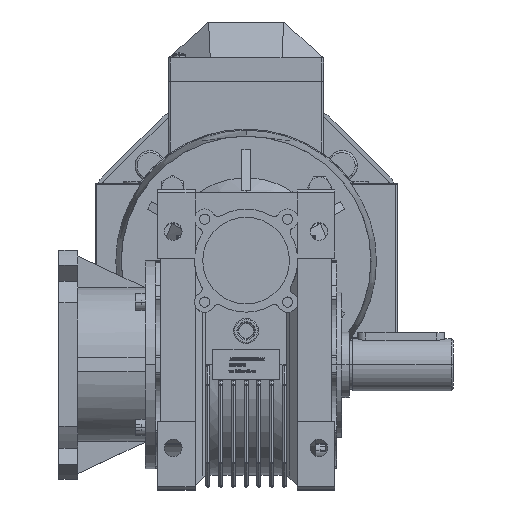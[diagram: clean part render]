
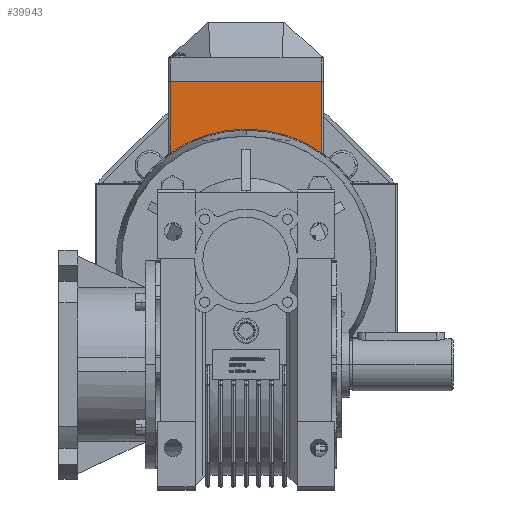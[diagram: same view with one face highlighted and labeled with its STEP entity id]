
A CAD part, top view. The second image highlights one B-rep face of the part: STEP entity #39943.
In plain terms, the highlighted planar face has unit normal (0, 0, 1).
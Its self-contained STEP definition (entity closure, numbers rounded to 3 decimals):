
#19 = DIRECTION ( 'NONE',  ( 0., 0., 1. ) ) ;
#278 = CARTESIAN_POINT ( 'NONE',  ( 0., -9.975, 0. ) ) ;
#822 = ORIENTED_EDGE ( 'NONE', *, *, #48514, .T. ) ;
#854 = ORIENTED_EDGE ( 'NONE', *, *, #27458, .T. ) ;
#1288 = CARTESIAN_POINT ( 'NONE',  ( -36.282, 45.251, 0. ) ) ;
#4434 = VECTOR ( 'NONE', #77160, 1000. ) ;
#4454 = DIRECTION ( 'NONE',  ( -1., 0., 0. ) ) ;
#7438 = VERTEX_POINT ( 'NONE', #278 ) ;
#8018 = CIRCLE ( 'NONE', #109142, 58. ) ;
#8771 = EDGE_CURVE ( 'NONE', #65707, #29183, #8018, .T. ) ;
#9987 = EDGE_LOOP ( 'NONE', ( #104107, #53023, #110832, #47621, #57698, #104304, #98650, #27817, #854, #822, #113273, #22730 ) ) ;
#10400 = LINE ( 'NONE', #65984, #105538 ) ;
#14269 = AXIS2_PLACEMENT_3D ( 'NONE', #94013, #84112, #38570 ) ;
#18540 = VERTEX_POINT ( 'NONE', #53720 ) ;
#18764 = CARTESIAN_POINT ( 'NONE',  ( -72.5, 37.282, 0. ) ) ;
#19725 = CARTESIAN_POINT ( 'NONE',  ( 44.431, 37.282, 0. ) ) ;
#19888 = EDGE_CURVE ( 'NONE', #18540, #57154, #49044, .T. ) ;
#19949 = AXIS2_PLACEMENT_3D ( 'NONE', #36548, #19, #72903 ) ;
#21250 = EDGE_CURVE ( 'NONE', #41386, #85569, #10400, .T. ) ;
#22339 = VECTOR ( 'NONE', #58625, 1000. ) ;
#22730 = ORIENTED_EDGE ( 'NONE', *, *, #38476, .T. ) ;
#22898 = VECTOR ( 'NONE', #4454, 1000. ) ;
#23271 = CARTESIAN_POINT ( 'NONE',  ( 44.431, 37.282, 0. ) ) ;
#27458 = EDGE_CURVE ( 'NONE', #28649, #97891, #116967, .T. ) ;
#27817 = ORIENTED_EDGE ( 'NONE', *, *, #40690, .T. ) ;
#28649 = VERTEX_POINT ( 'NONE', #54918 ) ;
#28686 = DIRECTION ( 'NONE',  ( 0., 0., 1. ) ) ;
#28753 = AXIS2_PLACEMENT_3D ( 'NONE', #36139, #105462, #78872 ) ;
#29148 = CARTESIAN_POINT ( 'NONE',  ( 44.431, -37.282, 0. ) ) ;
#29180 = VECTOR ( 'NONE', #112464, 1000. ) ;
#29183 = VERTEX_POINT ( 'NONE', #111414 ) ;
#30154 = VERTEX_POINT ( 'NONE', #46117 ) ;
#30801 = DIRECTION ( 'NONE',  ( 0., 0., 1. ) ) ;
#33843 = DIRECTION ( 'NONE',  ( 0., 0., -1. ) ) ;
#33902 = FACE_BOUND ( 'NONE', #50969, .T. ) ;
#34913 = LINE ( 'NONE', #102971, #29180 ) ;
#36139 = CARTESIAN_POINT ( 'NONE',  ( 0., 0., 0. ) ) ;
#36548 = CARTESIAN_POINT ( 'NONE',  ( 0., 0., 0. ) ) ;
#36917 = EDGE_CURVE ( 'NONE', #75025, #111040, #90272, .T. ) ;
#37514 = DIRECTION ( 'NONE',  ( 1., 0., 0. ) ) ;
#38476 = EDGE_CURVE ( 'NONE', #111040, #99383, #72734, .T. ) ;
#38570 = DIRECTION ( 'NONE',  ( 0., 1., 0. ) ) ;
#39729 = CARTESIAN_POINT ( 'NONE',  ( -44.431, 37.282, 0. ) ) ;
#39939 = DIRECTION ( 'NONE',  ( 1., 0., 0. ) ) ;
#39943 = ADVANCED_FACE ( 'NONE', ( #49489, #33902 ), #114542, .T. ) ;
#40690 = EDGE_CURVE ( 'NONE', #29183, #28649, #86255, .T. ) ;
#41386 = VERTEX_POINT ( 'NONE', #85688 ) ;
#41756 = CARTESIAN_POINT ( 'NONE',  ( 36.282, 0., 0. ) ) ;
#44463 = VECTOR ( 'NONE', #105151, 1000. ) ;
#45553 = CARTESIAN_POINT ( 'NONE',  ( 36.282, 45.251, 0. ) ) ;
#46117 = CARTESIAN_POINT ( 'NONE',  ( 0., 9.975, 0. ) ) ;
#46132 = DIRECTION ( 'NONE',  ( 1., 0., 0. ) ) ;
#47339 = CARTESIAN_POINT ( 'NONE',  ( -36.282, 0., 0. ) ) ;
#47621 = ORIENTED_EDGE ( 'NONE', *, *, #88673, .F. ) ;
#47753 = CIRCLE ( 'NONE', #111131, 58. ) ;
#48514 = EDGE_CURVE ( 'NONE', #97891, #75025, #95313, .T. ) ;
#49044 = LINE ( 'NONE', #47339, #50436 ) ;
#49489 = FACE_OUTER_BOUND ( 'NONE', #9987, .T. ) ;
#50436 = VECTOR ( 'NONE', #109145, 1000. ) ;
#50969 = EDGE_LOOP ( 'NONE', ( #100421, #81719 ) ) ;
#52451 = CARTESIAN_POINT ( 'NONE',  ( 72.5, 37.282, 0. ) ) ;
#53023 = ORIENTED_EDGE ( 'NONE', *, *, #19888, .T. ) ;
#53720 = CARTESIAN_POINT ( 'NONE',  ( -36.282, 86.25, 0. ) ) ;
#54918 = CARTESIAN_POINT ( 'NONE',  ( 72.5, -37.282, 0. ) ) ;
#56312 = EDGE_CURVE ( 'NONE', #18540, #99383, #77600, .T. ) ;
#57154 = VERTEX_POINT ( 'NONE', #1288 ) ;
#57698 = ORIENTED_EDGE ( 'NONE', *, *, #21250, .F. ) ;
#58625 = DIRECTION ( 'NONE',  ( 1., 0., 0. ) ) ;
#60347 = EDGE_CURVE ( 'NONE', #65707, #41386, #79662, .T. ) ;
#62137 = VECTOR ( 'NONE', #37514, 1000. ) ;
#64281 = CARTESIAN_POINT ( 'NONE',  ( -44.431, -37.282, 0. ) ) ;
#65205 = DIRECTION ( 'NONE',  ( 0., 1., 0. ) ) ;
#65511 = AXIS2_PLACEMENT_3D ( 'NONE', #69478, #33843, #87791 ) ;
#65707 = VERTEX_POINT ( 'NONE', #64281 ) ;
#65848 = VECTOR ( 'NONE', #89891, 1000. ) ;
#65984 = CARTESIAN_POINT ( 'NONE',  ( -72.5, 37.282, 0. ) ) ;
#66933 = CARTESIAN_POINT ( 'NONE',  ( 36.282, 86.25, 0. ) ) ;
#67846 = CARTESIAN_POINT ( 'NONE',  ( -44.431, -37.282, 0. ) ) ;
#68870 = CIRCLE ( 'NONE', #14269, 9.975 ) ;
#69478 = CARTESIAN_POINT ( 'NONE',  ( 0., 0., 0. ) ) ;
#72734 = LINE ( 'NONE', #41756, #44463 ) ;
#72903 = DIRECTION ( 'NONE',  ( 1., 0., 0. ) ) ;
#75025 = VERTEX_POINT ( 'NONE', #19725 ) ;
#77160 = DIRECTION ( 'NONE',  ( -1., 0., 0. ) ) ;
#77600 = LINE ( 'NONE', #95474, #22339 ) ;
#78872 = DIRECTION ( 'NONE',  ( 1., 0., 0. ) ) ;
#79662 = LINE ( 'NONE', #67846, #22898 ) ;
#81719 = ORIENTED_EDGE ( 'NONE', *, *, #89514, .T. ) ;
#83764 = CARTESIAN_POINT ( 'NONE',  ( 0., 0., 0. ) ) ;
#84112 = DIRECTION ( 'NONE',  ( 0., 0., -1. ) ) ;
#85569 = VERTEX_POINT ( 'NONE', #18764 ) ;
#85688 = CARTESIAN_POINT ( 'NONE',  ( -72.5, -37.282, 0. ) ) ;
#86255 = LINE ( 'NONE', #29148, #62137 ) ;
#86822 = CIRCLE ( 'NONE', #65511, 9.975 ) ;
#87791 = DIRECTION ( 'NONE',  ( 0., 1., 0. ) ) ;
#88673 = EDGE_CURVE ( 'NONE', #85569, #94700, #34913, .T. ) ;
#89514 = EDGE_CURVE ( 'NONE', #7438, #30154, #68870, .T. ) ;
#89891 = DIRECTION ( 'NONE',  ( 0., 1., 0. ) ) ;
#90272 = CIRCLE ( 'NONE', #19949, 58. ) ;
#90656 = CARTESIAN_POINT ( 'NONE',  ( 72.5, 37.282, 0. ) ) ;
#94013 = CARTESIAN_POINT ( 'NONE',  ( 0., 0., 0. ) ) ;
#94222 = CARTESIAN_POINT ( 'NONE',  ( 0., 0., 0. ) ) ;
#94700 = VERTEX_POINT ( 'NONE', #39729 ) ;
#95313 = LINE ( 'NONE', #23271, #4434 ) ;
#95420 = EDGE_CURVE ( 'NONE', #57154, #94700, #47753, .T. ) ;
#95474 = CARTESIAN_POINT ( 'NONE',  ( -37.282, 86.25, 0. ) ) ;
#97891 = VERTEX_POINT ( 'NONE', #52451 ) ;
#98650 = ORIENTED_EDGE ( 'NONE', *, *, #8771, .T. ) ;
#99383 = VERTEX_POINT ( 'NONE', #66933 ) ;
#100421 = ORIENTED_EDGE ( 'NONE', *, *, #109771, .T. ) ;
#102971 = CARTESIAN_POINT ( 'NONE',  ( -44.431, 37.282, 0. ) ) ;
#104107 = ORIENTED_EDGE ( 'NONE', *, *, #56312, .F. ) ;
#104304 = ORIENTED_EDGE ( 'NONE', *, *, #60347, .F. ) ;
#105151 = DIRECTION ( 'NONE',  ( 0., 1., 0. ) ) ;
#105462 = DIRECTION ( 'NONE',  ( 0., 0., 1. ) ) ;
#105538 = VECTOR ( 'NONE', #65205, 1000. ) ;
#109142 = AXIS2_PLACEMENT_3D ( 'NONE', #83764, #28686, #46132 ) ;
#109145 = DIRECTION ( 'NONE',  ( 0., -1., 0. ) ) ;
#109771 = EDGE_CURVE ( 'NONE', #30154, #7438, #86822, .T. ) ;
#110832 = ORIENTED_EDGE ( 'NONE', *, *, #95420, .T. ) ;
#111040 = VERTEX_POINT ( 'NONE', #45553 ) ;
#111131 = AXIS2_PLACEMENT_3D ( 'NONE', #94222, #30801, #39939 ) ;
#111414 = CARTESIAN_POINT ( 'NONE',  ( 44.431, -37.282, 0. ) ) ;
#112464 = DIRECTION ( 'NONE',  ( 1., 0., 0. ) ) ;
#113273 = ORIENTED_EDGE ( 'NONE', *, *, #36917, .T. ) ;
#114542 = PLANE ( 'NONE',  #28753 ) ;
#116967 = LINE ( 'NONE', #90656, #65848 ) ;
